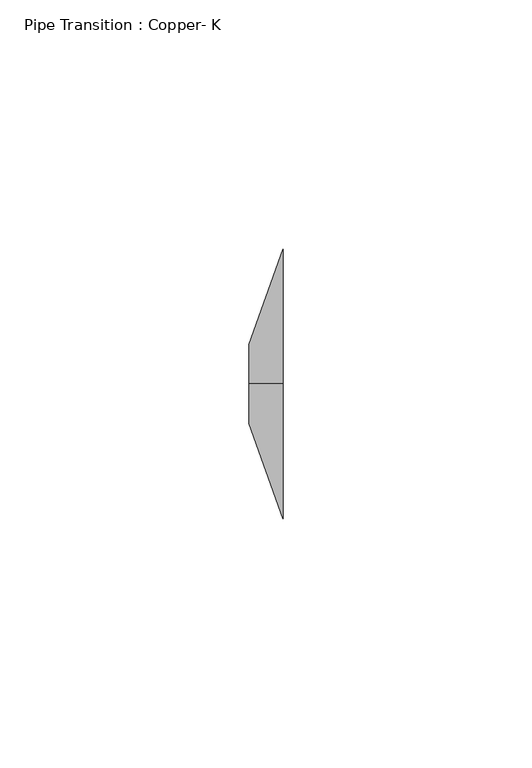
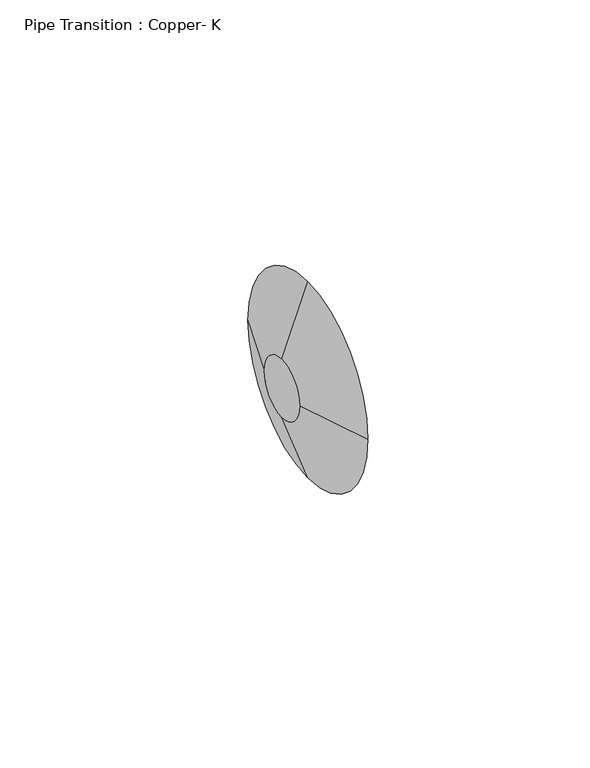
"""IFC4 building model written with IfcOpenShell, lengths in millimetres: pipe fitting geometry, Pipe Transition : Copper- K."""

from ifc_helpers import new_model, si_unit, frame, origin, place, context, project, spatial, polyline, circle_curve, source, transform, mapped, element, save
from ifc_brep_helpers import plane_surface, revolved_surface, advanced_brep


def pipe_transition_copper_k_a6841901(model_context):
    return source(origin(), model_context, "Body", "AdvancedBrep", [
        advanced_brep(
        [(6.746875, 0.0, 26.9875), (6.746875, -26.9875, 0.0), (6.746875, 0.0, -26.9875), (6.746875, 26.9875, 0.0), (0.0, 0.0, 7.9375), (0.0, 7.9375, 0.0), (0.0, 0.0, -7.9375), (0.0, -7.9375, 0.0)],
        [
            (0, 1, circle_curve(frame((6.746875, 0.0, 0.0), z_axis=(1.0, 0.0, 0.0), x_axis=(0.0, 0.0, 1.0)), 26.9875)),
            (1, 2, circle_curve(frame((6.746875, 0.0, 0.0), z_axis=(1.0, 0.0, 0.0), x_axis=(0.0, -1.0, 0.0)), 26.9875)),
            (2, 3, circle_curve(frame((6.746875, 0.0, 0.0), z_axis=(1.0, 0.0, 0.0), x_axis=(0.0, 0.0, -1.0)), 26.9875)),
            (3, 0, circle_curve(frame((6.746875, 0.0, 0.0), z_axis=(1.0, 0.0, 0.0), x_axis=(0.0, 1.0, 0.0)), 26.9875)),
            (4, 5, circle_curve(frame((0.0, 0.0, 0.0), z_axis=(-1.0, 0.0, 0.0), x_axis=(0.0, 1.0, 0.0)), 7.9375)),
            (5, 6, circle_curve(frame((0.0, 0.0, 0.0), z_axis=(-1.0, 0.0, 0.0), x_axis=(0.0, 0.0, -1.0)), 7.9375)),
            (6, 7, circle_curve(frame((0.0, 0.0, 0.0), z_axis=(-1.0, 0.0, 0.0), x_axis=(0.0, -1.0, 0.0)), 7.9375)),
            (7, 4, circle_curve(frame((0.0, 0.0, 0.0), z_axis=(-1.0, 0.0, 0.0), x_axis=(0.0, 0.0, 1.0)), 7.9375)),
            (7, 1),
            (0, 4),
            (6, 2),
            (5, 3),
        ],
        [
            plane_surface(frame((6.746875, 0.0, 0.0), z_axis=(1.0, 0.0, 0.0), x_axis=(0.0, -1.0, 0.0))),
            plane_surface(frame((0.0, 0.0, 0.0), z_axis=(-1.0, 0.0, 0.0), x_axis=(0.0, -1.0, 0.0))),
            revolved_surface(polyline([(0.0, -7.937499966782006, 0.0), (6.746874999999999, -26.9875, 0.0)]), (-2.8111979, 0.0, 0.0), (1.0, 0.0, 0.0)),
            revolved_surface(polyline([(0.0, 0.0, -7.937499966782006), (6.746874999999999, 0.0, -26.9875)]), (-2.8111979, 0.0, 0.0), (1.0, 0.0, 0.0)),
            revolved_surface(polyline([(0.0, 7.937499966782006, 0.0), (6.746874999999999, 26.9875, 0.0)]), (-2.8111979, 0.0, 0.0), (1.0, 0.0, 0.0)),
            revolved_surface(polyline([(0.0, 0.0, 7.937499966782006), (6.746874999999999, 0.0, 26.9875)]), (-2.8111979, 0.0, 0.0), (1.0, 0.0, 0.0)),
        ],
        [
            (0, [[1, 2, 3, 4]]),
            (1, [[5, 6, 7, 8]]),
            (2, [[-8, 9, -1, 10]]),
            (3, [[-7, 11, -2, -9]]),
            (4, [[-6, 12, -3, -11]]),
            (5, [[-5, -10, -4, -12]]),
        ],
    ),
        advanced_brep(
        [(6.746875, 0.0, 26.9875), (6.746875, -26.9875, 0.0), (6.746875, 0.0, -26.9875), (6.746875, 26.9875, 0.0), (0.0, 0.0, 7.9375), (0.0, 7.9375, 0.0), (0.0, 0.0, -7.9375), (0.0, -7.9375, 0.0)],
        [
            (0, 1, circle_curve(frame((6.746875, 0.0, 0.0), z_axis=(1.0, 0.0, -1.2427890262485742e-12), x_axis=(1.2428108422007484e-12, 0.0, 1.0)), 26.9875)),
            (1, 2, circle_curve(frame((6.746875, 0.0, 0.0), z_axis=(1.0, 0.0, -1.1926330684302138e-12), x_axis=(0.0, -1.0, 0.0)), 26.9875)),
            (2, 3, circle_curve(frame((6.746875, 0.0, 0.0), z_axis=(1.0, 0.0, -1.9352791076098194e-12), x_axis=(-1.9352962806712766e-12, 0.0, -1.0)), 26.9875)),
            (3, 0, circle_curve(frame((6.746875, 0.0, 0.0), z_axis=(1.0, 0.0, 0.0), x_axis=(0.0, 1.0, 0.0)), 26.9875)),
            (4, 5, circle_curve(frame((0.0, 0.0, 0.0), z_axis=(-1.0, 0.0, 0.0), x_axis=(0.0, 1.0, 0.0)), 7.9375)),
            (5, 6, circle_curve(frame((0.0, 0.0, 0.0), z_axis=(-1.0, 0.0, 1.9352791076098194e-12), x_axis=(-1.9352962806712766e-12, 0.0, -1.0)), 7.9375)),
            (6, 7, circle_curve(frame((0.0, 0.0, 0.0), z_axis=(-1.0, 0.0, 1.1926330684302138e-12), x_axis=(0.0, -1.0, 0.0)), 7.9375)),
            (7, 4, circle_curve(frame((0.0, 0.0, 0.0), z_axis=(-1.0, 0.0, 1.2427890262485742e-12), x_axis=(1.2428108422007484e-12, 0.0, 1.0)), 7.9375)),
            (7, 1),
            (0, 4),
            (6, 2),
            (5, 3),
        ],
        [
            plane_surface(frame((6.746875, 0.0, 0.0), z_axis=(1.0, 0.0, 0.0), x_axis=(0.0, -1.0, 0.0))),
            plane_surface(frame((0.0, 0.0, 0.0), z_axis=(-1.0, 0.0, 0.0), x_axis=(0.0, -1.0, 0.0))),
            revolved_surface(polyline([(-9.864553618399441e-12, -7.937499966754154, 0.0), (6.746874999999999, -26.9875, 0.0)]), (-2.8111979, 0.0, 0.0), (1.0, 0.0, -1.2427890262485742e-12)),
            revolved_surface(polyline([(-9.466205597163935e-12, 0.0, -7.937499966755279), (6.746874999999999, 0.0, -26.9875)]), (-2.8111979, 0.0, 0.0), (1.0, 0.0, -1.1926330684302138e-12)),
            revolved_surface(polyline([(0.0, 7.937499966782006, 0.0), (6.746875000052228, 26.987500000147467, 0.0)]), (-2.8111979, 0.0, 0.0), (1.0, 0.0, -1.9352791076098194e-12)),
            revolved_surface(polyline([(0.0, 0.0, 7.937499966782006), (6.746874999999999, 0.0, 26.9875)]), (-2.8111979, 0.0, 0.0), (1.0, 0.0, 0.0)),
        ],
        [
            (0, [[1, 2, 3, 4]]),
            (1, [[5, 6, 7, 8]]),
            (2, [[-8, 9, -1, 10]]),
            (3, [[-7, 11, -2, -9]]),
            (4, [[-6, 12, -3, -11]]),
            (5, [[-5, -10, -4, -12]]),
        ],
    ),
    ])


if __name__ == "__main__":
    model = new_model("IFC4")
    model_context = context("Model", 3, world=origin())
    ifc_project = project(units=[si_unit("LENGTHUNIT", "METRE", prefix="MILLI")], contexts=[model_context])
    site = spatial("IfcSite", under=ifc_project)
    building = spatial("IfcBuilding", under=site)
    placement = place(None, origin())
    pipe_transition_copper_k_shape = pipe_transition_copper_k_a6841901(model_context)
    element("IfcPipeFitting", 1, ObjectType="Pipe Transition : Copper- K", at=placement, inside=building, context=model_context, shape_type="MappedRepresentation", body=[
        mapped(pipe_transition_copper_k_shape, transform((0.0, 0.0, 0.0), x_axis=(1.0, 0.0, 0.0), y_axis=(0.0, 1.0, 0.0), z_axis=(0.0, 0.0, 1.0))),
    ])
    save(model, "model.ifc")
